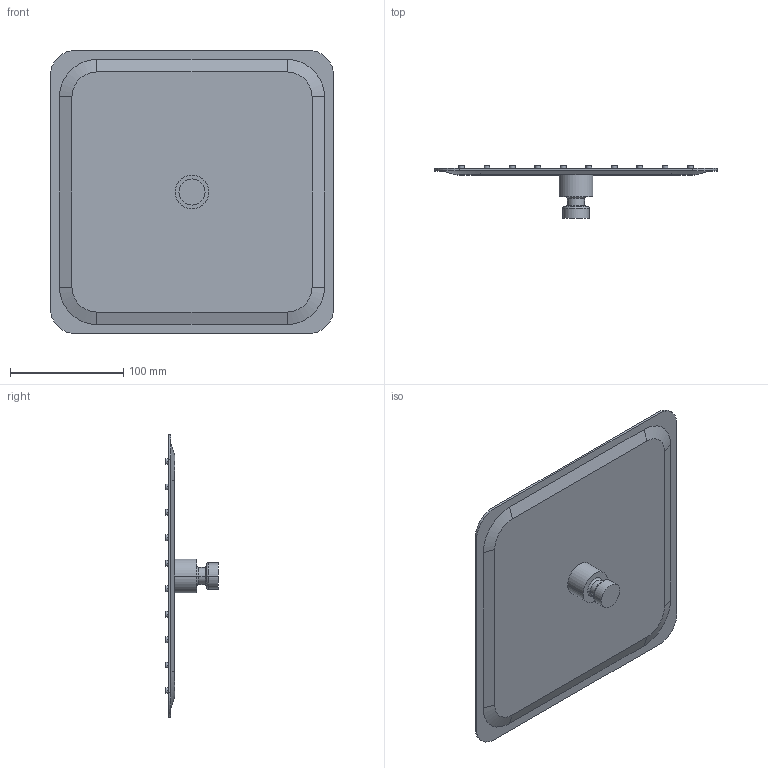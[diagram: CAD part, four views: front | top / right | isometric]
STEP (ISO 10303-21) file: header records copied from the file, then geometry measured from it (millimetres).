
FILE_DESCRIPTION((''),'2;1');
FILE_NAME('P35300','2020-03-16T11:30:02',('LF994'),(''),'CREO PARAMETRIC BY PTC INC, 2018500','CREO PARAMETRIC BY PTC INC, 2018500','');
FILE_SCHEMA(('CONFIG_CONTROL_DESIGN'));
Length unit declared in the file: millimetre
Products named in the file (1): P35300
Bounding box: 250 x 46.5 x 250 mm (x, y, z)
Volume: 320711.6 mm3; surface area: 133836.6 mm2
Topology: 1 solids, 1 shells, 333 faces, 676 edges, 448 vertices
Faces by surface type: cylinder 210, plane 113, cone 6, torus 4
Entity records: 8980 total; most frequent: DIRECTION 1778, CARTESIAN_POINT 1457, ORIENTED_EDGE 1352, AXIS2_PLACEMENT_3D 769, EDGE_CURVE 676, VERTEX_POINT 448, EDGE_LOOP 436, CIRCLE 436
